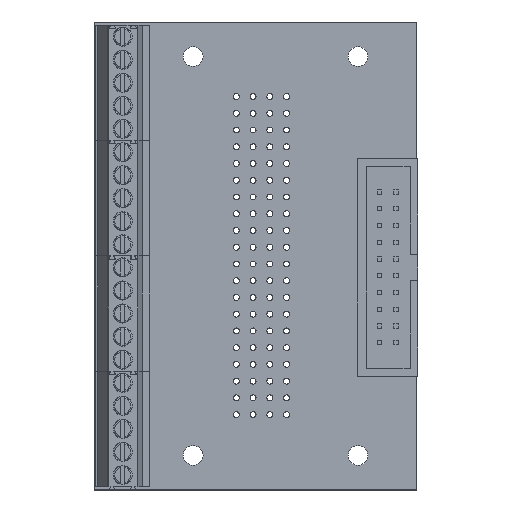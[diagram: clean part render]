
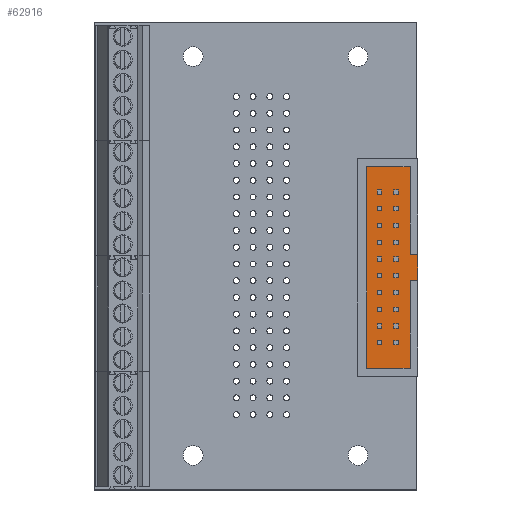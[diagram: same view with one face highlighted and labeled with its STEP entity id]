
A CAD part, top view. The second image highlights one B-rep face of the part: STEP entity #62916.
In plain terms, the highlighted planar face has unit normal (0, 0, 1).
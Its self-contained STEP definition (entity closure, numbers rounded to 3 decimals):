
#62602 = VERTEX_POINT('',#62603);
#62603 = CARTESIAN_POINT('',(-4.6,-16.5,2.2));
#62610 = PLANE('',#62611);
#62611 = AXIS2_PLACEMENT_3D('',#62612,#62613,#62614);
#62612 = CARTESIAN_POINT('',(-4.6,-16.5,0.));
#62613 = DIRECTION('',(0.,1.,0.));
#62614 = DIRECTION('',(1.,0.,0.));
#62622 = PLANE('',#62623);
#62623 = AXIS2_PLACEMENT_3D('',#62624,#62625,#62626);
#62624 = CARTESIAN_POINT('',(-4.6,16.5,0.));
#62625 = DIRECTION('',(1.,0.,0.));
#62626 = DIRECTION('',(0.,-1.,0.));
#62634 = EDGE_CURVE('',#62602,#62635,#62637,.T.);
#62635 = VERTEX_POINT('',#62636);
#62636 = CARTESIAN_POINT('',(4.6,-16.5,2.2));
#62637 = SURFACE_CURVE('',#62638,(#62642,#62649),.PCURVE_S1.);
#62638 = LINE('',#62639,#62640);
#62639 = CARTESIAN_POINT('',(-4.6,-16.5,2.2));
#62640 = VECTOR('',#62641,1.);
#62641 = DIRECTION('',(1.,0.,0.));
#62642 = PCURVE('',#62610,#62643);
#62643 = DEFINITIONAL_REPRESENTATION('',(#62644),#62648);
#62644 = LINE('',#62645,#62646);
#62645 = CARTESIAN_POINT('',(0.,-2.2));
#62646 = VECTOR('',#62647,1.);
#62647 = DIRECTION('',(1.,0.));
#62648 = ( GEOMETRIC_REPRESENTATION_CONTEXT(2) 
PARAMETRIC_REPRESENTATION_CONTEXT() REPRESENTATION_CONTEXT('2D SPACE',''
  ) );
#62649 = PCURVE('',#62650,#62655);
#62650 = PLANE('',#62651);
#62651 = AXIS2_PLACEMENT_3D('',#62652,#62653,#62654);
#62652 = CARTESIAN_POINT('',(-4.6,-16.5,2.2));
#62653 = DIRECTION('',(0.,0.,-1.));
#62654 = DIRECTION('',(-1.,0.,0.));
#62655 = DEFINITIONAL_REPRESENTATION('',(#62656),#62660);
#62656 = LINE('',#62657,#62658);
#62657 = CARTESIAN_POINT('',(0.,0.));
#62658 = VECTOR('',#62659,1.);
#62659 = DIRECTION('',(-1.,0.));
#62660 = ( GEOMETRIC_REPRESENTATION_CONTEXT(2) 
PARAMETRIC_REPRESENTATION_CONTEXT() REPRESENTATION_CONTEXT('2D SPACE',''
  ) );
#62678 = PLANE('',#62679);
#62679 = AXIS2_PLACEMENT_3D('',#62680,#62681,#62682);
#62680 = CARTESIAN_POINT('',(4.6,-16.5,0.));
#62681 = DIRECTION('',(-1.,0.,0.));
#62682 = DIRECTION('',(0.,1.,0.));
#62720 = EDGE_CURVE('',#62635,#62721,#62723,.T.);
#62721 = VERTEX_POINT('',#62722);
#62722 = CARTESIAN_POINT('',(4.6,16.5,2.2));
#62723 = SURFACE_CURVE('',#62724,(#62728,#62735),.PCURVE_S1.);
#62724 = LINE('',#62725,#62726);
#62725 = CARTESIAN_POINT('',(4.6,-16.5,2.2));
#62726 = VECTOR('',#62727,1.);
#62727 = DIRECTION('',(0.,1.,0.));
#62728 = PCURVE('',#62678,#62729);
#62729 = DEFINITIONAL_REPRESENTATION('',(#62730),#62734);
#62730 = LINE('',#62731,#62732);
#62731 = CARTESIAN_POINT('',(0.,-2.2));
#62732 = VECTOR('',#62733,1.);
#62733 = DIRECTION('',(1.,0.));
#62734 = ( GEOMETRIC_REPRESENTATION_CONTEXT(2) 
PARAMETRIC_REPRESENTATION_CONTEXT() REPRESENTATION_CONTEXT('2D SPACE',''
  ) );
#62735 = PCURVE('',#62650,#62736);
#62736 = DEFINITIONAL_REPRESENTATION('',(#62737),#62741);
#62737 = LINE('',#62738,#62739);
#62738 = CARTESIAN_POINT('',(-9.2,0.));
#62739 = VECTOR('',#62740,1.);
#62740 = DIRECTION('',(0.,1.));
#62741 = ( GEOMETRIC_REPRESENTATION_CONTEXT(2) 
PARAMETRIC_REPRESENTATION_CONTEXT() REPRESENTATION_CONTEXT('2D SPACE',''
  ) );
#62759 = PLANE('',#62760);
#62760 = AXIS2_PLACEMENT_3D('',#62761,#62762,#62763);
#62761 = CARTESIAN_POINT('',(4.6,16.5,0.));
#62762 = DIRECTION('',(0.,-1.,0.));
#62763 = DIRECTION('',(-1.,0.,0.));
#62796 = EDGE_CURVE('',#62721,#62797,#62799,.T.);
#62797 = VERTEX_POINT('',#62798);
#62798 = CARTESIAN_POINT('',(-4.6,16.5,2.2));
#62799 = SURFACE_CURVE('',#62800,(#62804,#62811),.PCURVE_S1.);
#62800 = LINE('',#62801,#62802);
#62801 = CARTESIAN_POINT('',(4.6,16.5,2.2));
#62802 = VECTOR('',#62803,1.);
#62803 = DIRECTION('',(-1.,0.,0.));
#62804 = PCURVE('',#62759,#62805);
#62805 = DEFINITIONAL_REPRESENTATION('',(#62806),#62810);
#62806 = LINE('',#62807,#62808);
#62807 = CARTESIAN_POINT('',(0.,-2.2));
#62808 = VECTOR('',#62809,1.);
#62809 = DIRECTION('',(1.,0.));
#62810 = ( GEOMETRIC_REPRESENTATION_CONTEXT(2) 
PARAMETRIC_REPRESENTATION_CONTEXT() REPRESENTATION_CONTEXT('2D SPACE',''
  ) );
#62811 = PCURVE('',#62650,#62812);
#62812 = DEFINITIONAL_REPRESENTATION('',(#62813),#62817);
#62813 = LINE('',#62814,#62815);
#62814 = CARTESIAN_POINT('',(-9.2,33.));
#62815 = VECTOR('',#62816,1.);
#62816 = DIRECTION('',(1.,0.));
#62817 = ( GEOMETRIC_REPRESENTATION_CONTEXT(2) 
PARAMETRIC_REPRESENTATION_CONTEXT() REPRESENTATION_CONTEXT('2D SPACE',''
  ) );
#62867 = EDGE_CURVE('',#62797,#62602,#62868,.T.);
#62868 = SURFACE_CURVE('',#62869,(#62873,#62880),.PCURVE_S1.);
#62869 = LINE('',#62870,#62871);
#62870 = CARTESIAN_POINT('',(-4.6,16.5,2.2));
#62871 = VECTOR('',#62872,1.);
#62872 = DIRECTION('',(0.,-1.,0.));
#62873 = PCURVE('',#62622,#62874);
#62874 = DEFINITIONAL_REPRESENTATION('',(#62875),#62879);
#62875 = LINE('',#62876,#62877);
#62876 = CARTESIAN_POINT('',(0.,-2.2));
#62877 = VECTOR('',#62878,1.);
#62878 = DIRECTION('',(1.,0.));
#62879 = ( GEOMETRIC_REPRESENTATION_CONTEXT(2) 
PARAMETRIC_REPRESENTATION_CONTEXT() REPRESENTATION_CONTEXT('2D SPACE',''
  ) );
#62880 = PCURVE('',#62650,#62881);
#62881 = DEFINITIONAL_REPRESENTATION('',(#62882),#62886);
#62882 = LINE('',#62883,#62884);
#62883 = CARTESIAN_POINT('',(0.,33.));
#62884 = VECTOR('',#62885,1.);
#62885 = DIRECTION('',(0.,-1.));
#62886 = ( GEOMETRIC_REPRESENTATION_CONTEXT(2) 
PARAMETRIC_REPRESENTATION_CONTEXT() REPRESENTATION_CONTEXT('2D SPACE',''
  ) );
#62916 = ADVANCED_FACE('',(#62917),#62650,.F.);
#62917 = FACE_BOUND('',#62918,.T.);
#62918 = EDGE_LOOP('',(#62919,#62920,#62921,#62922));
#62919 = ORIENTED_EDGE('',*,*,#62634,.T.);
#62920 = ORIENTED_EDGE('',*,*,#62720,.T.);
#62921 = ORIENTED_EDGE('',*,*,#62796,.T.);
#62922 = ORIENTED_EDGE('',*,*,#62867,.T.);
